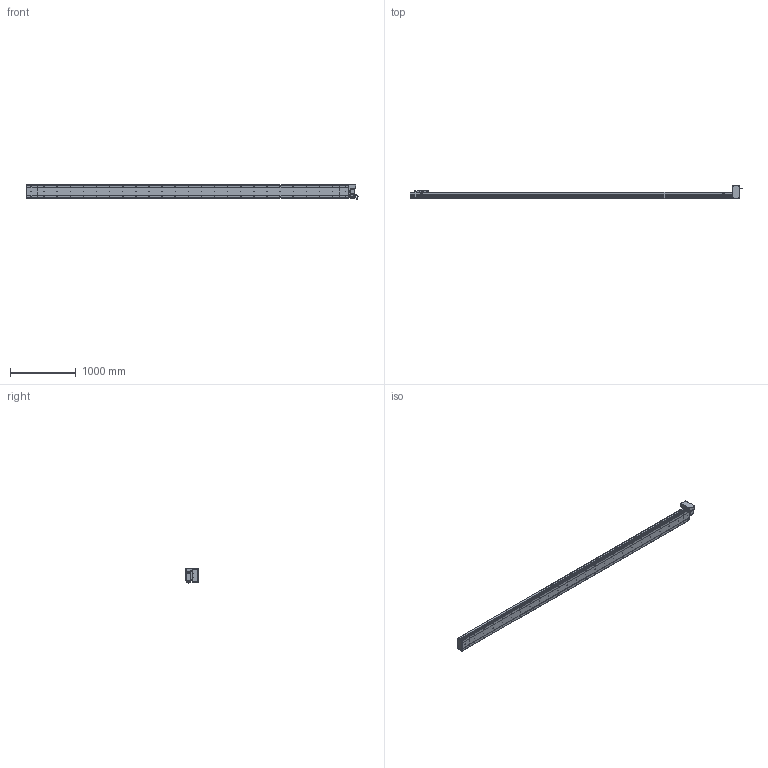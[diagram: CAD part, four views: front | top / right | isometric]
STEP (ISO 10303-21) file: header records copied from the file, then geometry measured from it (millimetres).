
FILE_DESCRIPTION (( 'STEP AP214' ), '1' );
FILE_NAME ('D20 CBH LT S4600.STEP', '2010-06-30T11:47:20', ( 'Conseil Régional Haute-Normandie' ), ( 'Conseil Régional Haute-Normandie' ), 'SwSTEP 2.0', 'SolidWorks 2010', '' );
FILE_SCHEMA (( 'AUTOMOTIVE_DESIGN' ));
Length unit declared in the file: millimetre
Products named in the file (31): D20 CBH LT S4600; Couvercle LT_Default; Corp Tail D20 LT_Default; Head LT_Default; Rondelle Cache D20 LT_Default; Plaque De Serrage D20 LT_Default; Plaque de Bout Head D20 LT_Default; avant 90BLDC125A-640; Moteur motionking 90BLDC125A-640; Support moteur LT_Default; Chariot D20_Default; Corp D20 S4600_Default; Couvercle S4600_Default; Corp S4600_Default; vis M5 L47_Default; vis M5 L30_Default; ecrou_Default; Cache Support Moteur LT_Default; Conecteur_Default; Conecteur2_Default; corps 90BLDC125A-640; codeur 90BLDC125-640; Plaque de Bout Tail D20_Default; Couvercle_Default; Corp Tail D20_Default; vis M5 L15_Default; Plaque De Serrage D20_Default; Tail D20_Default; Glissiere_Default; Support Chariot D20_Default
Assembly tree (66 placements, depth 4):
  D20 CBH LT S4600
    Head LT_Default
      vis M5 L30_Default  x4
      Moteur motionking 90BLDC125A-640
        avant 90BLDC125A-640
        corps 90BLDC125A-640
        Conecteur_Default
        Conecteur2_Default
        codeur 90BLDC125-640
      vis M5 L15_Default  x12
      Corp Tail D20 LT_Default
      vis M5 L47_Default  x4
      ecrou_Default  x4
      Cache Support Moteur LT_Default
      Plaque De Serrage D20 LT_Default
      Rondelle Cache D20 LT_Default  x3
      Couvercle LT_Default
      Support moteur LT_Default
      Plaque de Bout Head D20 LT_Default
    Corp D20 S4600_Default
      Couvercle S4600_Default
      Corp S4600_Default
    Tail D20_Default
      vis M5 L15_Default  x6
      Couvercle_Default
      Plaque de Bout Tail D20_Default
      Corp Tail D20_Default
      Plaque De Serrage D20_Default
    Chariot D20_Default
      vis M5 L15_Default  x8
      Chariot D20_Default
      Support Chariot D20_Default
      Glissiere_Default
Bounding box: 5063.45 x 202.5 x 229.7 mm (x, y, z)
Volume: 33272946.8 mm3; surface area: 6328429.2 mm2
Topology: 103 solids, 103 shells, 3900 faces, 9710 edges, 6316 vertices
Faces by surface type: plane 2137, bspline 806, cylinder 794, torus 91, cone 68, sphere 4
Entity records: 163990 total; most frequent: CARTESIAN_POINT 83770, ORIENTED_EDGE 15888, DIRECTION 12288, EDGE_CURVE 7944, VERTEX_POINT 5260, VECTOR 5024, LINE 5024, AXIS2_PLACEMENT_3D 3632
